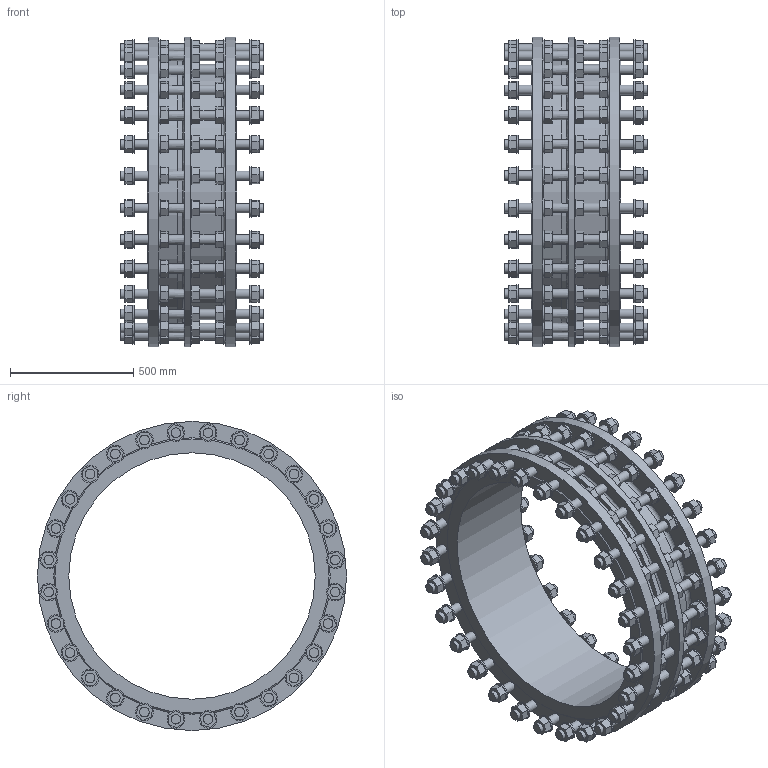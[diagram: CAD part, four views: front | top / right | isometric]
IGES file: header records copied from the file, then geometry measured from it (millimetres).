
Start section: SolidWorks IGES file using analytic representation for surfaces
Global section: file name: \\avksan2\techshare\PBM outline export from Enovia\O_265_910_DN1000_1XXXXX00_L=365_REV01.igs; native system: SolidWorks 2022; preprocessor: SolidWorks 2022; author: pbm; date: 241011.125813; units: millimetre
Bounding box: 580 x 1255 x 1255 mm (x, y, z)
Surface area: 6962235.5 mm2 (no closed solid volume)
Topology: 0 solids, 0 shells, 1601 faces, 7133 edges, 6814 vertices
Faces by surface type: bspline 1280, revolution 321
